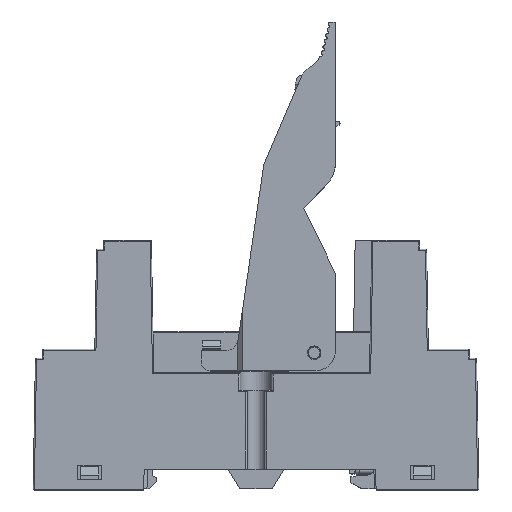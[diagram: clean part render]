
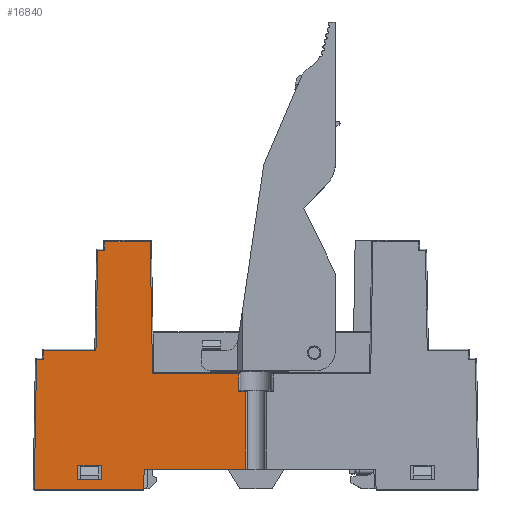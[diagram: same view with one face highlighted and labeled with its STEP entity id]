
A CAD part, top view. The second image highlights one B-rep face of the part: STEP entity #16840.
In plain terms, the highlighted planar face has unit normal (0, 0, 1).
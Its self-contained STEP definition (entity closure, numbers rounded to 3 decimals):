
#13391=FACE_BOUND('',#26040,.T.);
#13392=FACE_BOUND('',#26041,.T.);
#16840=ADVANCED_FACE('',(#13391,#13392),#19989,.T.);
#19989=PLANE('',#77015);
#26040=EDGE_LOOP('',(#35936,#35937,#35938,#35939,#35940,#35941,#35942,#35943,
#35944,#35945,#35946,#35947,#35948,#35949,#35950,#35951));
#26041=EDGE_LOOP('',(#35952,#35953,#35954,#35955));
#35936=ORIENTED_EDGE('',*,*,#55132,.T.);
#35937=ORIENTED_EDGE('',*,*,#56303,.T.);
#35938=ORIENTED_EDGE('',*,*,#56299,.T.);
#35939=ORIENTED_EDGE('',*,*,#56261,.T.);
#35940=ORIENTED_EDGE('',*,*,#56281,.T.);
#35941=ORIENTED_EDGE('',*,*,#56295,.T.);
#35942=ORIENTED_EDGE('',*,*,#56284,.T.);
#35943=ORIENTED_EDGE('',*,*,#56286,.T.);
#35944=ORIENTED_EDGE('',*,*,#56257,.T.);
#35945=ORIENTED_EDGE('',*,*,#56254,.T.);
#35946=ORIENTED_EDGE('',*,*,#56294,.T.);
#35947=ORIENTED_EDGE('',*,*,#56272,.T.);
#35948=ORIENTED_EDGE('',*,*,#56250,.T.);
#35949=ORIENTED_EDGE('',*,*,#56304,.T.);
#35950=ORIENTED_EDGE('',*,*,#54751,.T.);
#35951=ORIENTED_EDGE('',*,*,#56305,.T.);
#35952=ORIENTED_EDGE('',*,*,#56270,.F.);
#35953=ORIENTED_EDGE('',*,*,#56271,.F.);
#35954=ORIENTED_EDGE('',*,*,#56264,.F.);
#35955=ORIENTED_EDGE('',*,*,#56268,.F.);
#48143=VERTEX_POINT('',#101957);
#48144=VERTEX_POINT('',#101959);
#48421=VERTEX_POINT('',#102842);
#48422=VERTEX_POINT('',#102844);
#49011=VERTEX_POINT('',#105097);
#49012=VERTEX_POINT('',#105099);
#49013=VERTEX_POINT('',#105104);
#49014=VERTEX_POINT('',#105106);
#49016=VERTEX_POINT('',#105112);
#49018=VERTEX_POINT('',#105118);
#49019=VERTEX_POINT('',#105120);
#49020=VERTEX_POINT('',#105125);
#49021=VERTEX_POINT('',#105126);
#49022=VERTEX_POINT('',#105131);
#49023=VERTEX_POINT('',#105135);
#49024=VERTEX_POINT('',#105141);
#49027=VERTEX_POINT('',#105157);
#49028=VERTEX_POINT('',#105162);
#49029=VERTEX_POINT('',#105164);
#49033=VERTEX_POINT('',#105193);
#54751=EDGE_CURVE('',#48144,#48143,#63655,.T.);
#55132=EDGE_CURVE('',#48422,#48421,#63948,.T.);
#56250=EDGE_CURVE('',#49012,#49011,#64971,.T.);
#56254=EDGE_CURVE('',#49014,#49013,#64973,.T.);
#56257=EDGE_CURVE('',#49016,#49014,#64975,.T.);
#56261=EDGE_CURVE('',#49019,#49018,#64977,.T.);
#56264=EDGE_CURVE('',#49020,#49021,#64979,.T.);
#56268=EDGE_CURVE('',#49022,#49020,#64983,.T.);
#56270=EDGE_CURVE('',#49023,#49022,#64985,.T.);
#56271=EDGE_CURVE('',#49021,#49023,#64986,.T.);
#56272=EDGE_CURVE('',#49024,#49012,#64987,.T.);
#56281=EDGE_CURVE('',#49018,#49027,#64994,.T.);
#56284=EDGE_CURVE('',#49029,#49028,#64996,.T.);
#56286=EDGE_CURVE('',#49028,#49016,#64997,.T.);
#56294=EDGE_CURVE('',#49013,#49024,#65005,.T.);
#56295=EDGE_CURVE('',#49027,#49029,#65006,.T.);
#56299=EDGE_CURVE('',#49033,#49019,#65010,.T.);
#56303=EDGE_CURVE('',#48421,#49033,#65013,.T.);
#56304=EDGE_CURVE('',#49011,#48144,#65014,.T.);
#56305=EDGE_CURVE('',#48143,#48422,#65015,.T.);
#63655=LINE('',#101958,#70710);
#63948=LINE('',#102843,#71003);
#64971=LINE('',#105098,#72026);
#64973=LINE('',#105105,#72028);
#64975=LINE('',#105111,#72030);
#64977=LINE('',#105119,#72032);
#64979=LINE('',#105124,#72034);
#64983=LINE('',#105132,#72038);
#64985=LINE('',#105136,#72040);
#64986=LINE('',#105138,#72041);
#64987=LINE('',#105140,#72042);
#64994=LINE('',#105158,#72049);
#64996=LINE('',#105163,#72051);
#64997=LINE('',#105167,#72052);
#65005=LINE('',#105183,#72060);
#65006=LINE('',#105185,#72061);
#65010=LINE('',#105192,#72065);
#65013=LINE('',#105199,#72068);
#65014=LINE('',#105202,#72069);
#65015=LINE('',#105204,#72070);
#70710=VECTOR('',#84234,1.);
#71003=VECTOR('',#84891,1.);
#72026=VECTOR('',#87150,1.);
#72028=VECTOR('',#87158,1.);
#72030=VECTOR('',#87164,1.);
#72032=VECTOR('',#87172,1.);
#72034=VECTOR('',#87178,1.);
#72038=VECTOR('',#87184,1.);
#72040=VECTOR('',#87188,1.);
#72041=VECTOR('',#87191,1.);
#72042=VECTOR('',#87194,1.);
#72049=VECTOR('',#87215,1.);
#72051=VECTOR('',#87221,1.);
#72052=VECTOR('',#87226,1.);
#72060=VECTOR('',#87244,1.);
#72061=VECTOR('',#87247,1.);
#72065=VECTOR('',#87257,1.);
#72068=VECTOR('',#87266,1.);
#72069=VECTOR('',#87271,1.);
#72070=VECTOR('',#87274,1.);
#77015=AXIS2_PLACEMENT_3D('',#105205,#87275,#87276);
#84234=DIRECTION('',(1.,0.,0.));
#84891=DIRECTION('',(1.,0.,0.));
#87150=DIRECTION('',(-1.,0.,0.));
#87158=DIRECTION('',(-0.017,-1.,0.));
#87164=DIRECTION('',(-1.,0.,0.));
#87172=DIRECTION('',(0.,1.,0.));
#87178=DIRECTION('',(-1.,0.,0.));
#87184=DIRECTION('',(0.,1.,0.));
#87188=DIRECTION('',(1.,0.,0.));
#87191=DIRECTION('',(0.,-1.,0.));
#87194=DIRECTION('',(-0.017,-1.,0.));
#87215=DIRECTION('',(-1.,0.,0.));
#87221=DIRECTION('',(-1.,0.,0.));
#87226=DIRECTION('',(-0.017,-1.,0.));
#87244=DIRECTION('',(-1.,0.,0.));
#87247=DIRECTION('',(-0.017,1.,0.));
#87257=DIRECTION('',(-1.,0.,0.));
#87266=DIRECTION('',(0.,1.,0.));
#87271=DIRECTION('',(-0.017,-1.,0.));
#87274=DIRECTION('',(0.03,1.,0.));
#87275=DIRECTION('',(0.,0.,1.));
#87276=DIRECTION('',(-1.,0.,0.));
#101957=CARTESIAN_POINT('',(-31.017,7.363,13.6));
#101958=CARTESIAN_POINT('',(-30.836,7.363,13.6));
#101959=CARTESIAN_POINT('',(-49.603,7.363,13.6));
#102842=CARTESIAN_POINT('',(-13.611,10.863,13.6));
#102843=CARTESIAN_POINT('',(-30.861,10.863,13.6));
#102844=CARTESIAN_POINT('',(-30.911,10.863,13.6));
#105097=CARTESIAN_POINT('',(-49.216,29.563,13.6));
#105098=CARTESIAN_POINT('',(-49.412,29.563,13.6));
#105099=CARTESIAN_POINT('',(-48.016,29.563,13.6));
#105104=CARTESIAN_POINT('',(-39.112,31.063,13.6));
#105105=CARTESIAN_POINT('',(-39.109,31.259,13.6));
#105106=CARTESIAN_POINT('',(-38.816,48.063,13.6));
#105111=CARTESIAN_POINT('',(-39.012,48.063,13.6));
#105112=CARTESIAN_POINT('',(-37.616,48.063,13.6));
#105118=CARTESIAN_POINT('',(-14.811,27.063,13.6));
#105119=CARTESIAN_POINT('',(-14.811,29.763,13.6));
#105120=CARTESIAN_POINT('',(-14.811,24.063,13.6));
#105124=CARTESIAN_POINT('',(-38.186,11.463,13.6));
#105125=CARTESIAN_POINT('',(-38.186,11.463,13.6));
#105126=CARTESIAN_POINT('',(-42.186,11.463,13.6));
#105131=CARTESIAN_POINT('',(-38.186,9.063,13.6));
#105132=CARTESIAN_POINT('',(-38.186,9.063,13.6));
#105135=CARTESIAN_POINT('',(-42.186,9.063,13.6));
#105136=CARTESIAN_POINT('',(-38.186,9.063,13.6));
#105138=CARTESIAN_POINT('',(-42.186,9.063,13.6));
#105140=CARTESIAN_POINT('',(-48.012,29.759,13.6));
#105141=CARTESIAN_POINT('',(-47.99,31.063,13.6));
#105157=CARTESIAN_POINT('',(-29.49,27.063,13.6));
#105158=CARTESIAN_POINT('',(-49.411,27.063,13.6));
#105162=CARTESIAN_POINT('',(-37.59,49.563,13.6));
#105163=CARTESIAN_POINT('',(-37.786,49.563,13.6));
#105164=CARTESIAN_POINT('',(-29.883,49.563,13.6));
#105167=CARTESIAN_POINT('',(-37.612,48.259,13.6));
#105183=CARTESIAN_POINT('',(-48.186,31.063,13.6));
#105185=CARTESIAN_POINT('',(-29.543,30.109,13.6));
#105192=CARTESIAN_POINT('',(-49.411,24.063,13.6));
#105193=CARTESIAN_POINT('',(-13.611,24.063,13.6));
#105199=CARTESIAN_POINT('',(-13.611,24.263,13.6));
#105202=CARTESIAN_POINT('',(-49.603,7.359,13.6));
#105204=CARTESIAN_POINT('',(-30.911,10.857,13.6));
#105205=CARTESIAN_POINT('',(-49.411,29.763,13.6));
